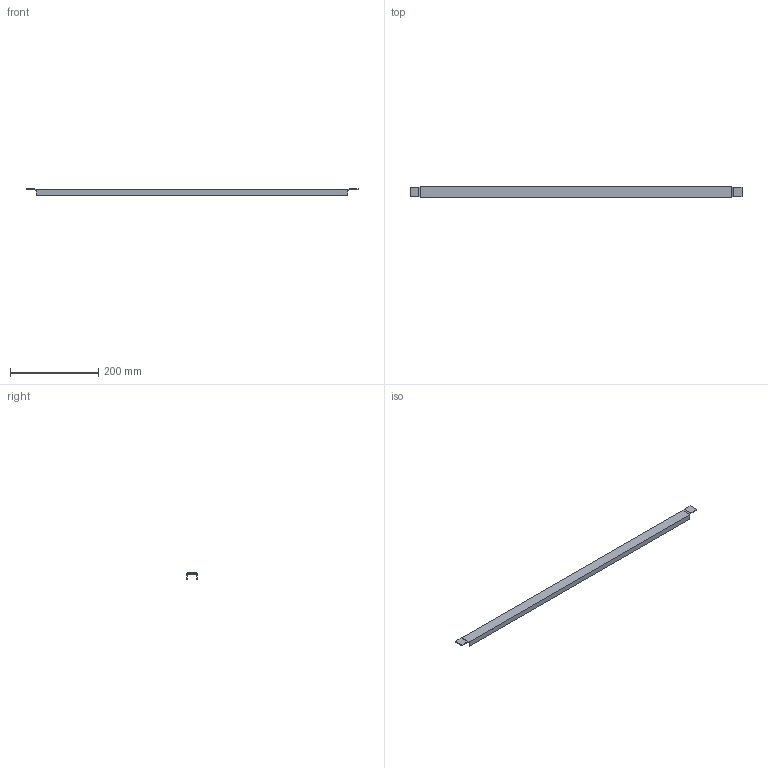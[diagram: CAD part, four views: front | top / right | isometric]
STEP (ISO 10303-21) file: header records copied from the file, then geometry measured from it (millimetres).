
FILE_DESCRIPTION( ( 'STEP AP214' ), '1' );
FILE_NAME( 'p:/temp/worker_119/temp/exporttempdir_932_100_QuIM1/format_0/CMB802(0).stp', '2021-03-15T14:45:04', ( 'License CC BY-ND 4.0' ), ( 'CADENAS' ), ' ', 'PARTsolutions', ' ' );
FILE_SCHEMA( ( 'AUTOMOTIVE_DESIGN { 1 0 10303 214 1 1 1 1 }' ) );
Length unit declared in the file: millimetre
Products named in the file (1): _CMB802(0)
Bounding box: 752 x 24.5 x 14.31 mm (x, y, z)
Volume: 64722.7 mm3; surface area: 67913.7 mm2
Topology: 1 solids, 1 shells, 26 faces, 68 edges, 44 vertices
Faces by surface type: plane 26
Entity records: 1004 total; most frequent: CARTESIAN_POINT 139, ORIENTED_EDGE 136, DIRECTION 122, EDGE_CURVE 68, LINE 68, VECTOR 68, VERTEX_POINT 44, AXIS2_PLACEMENT_3D 27
